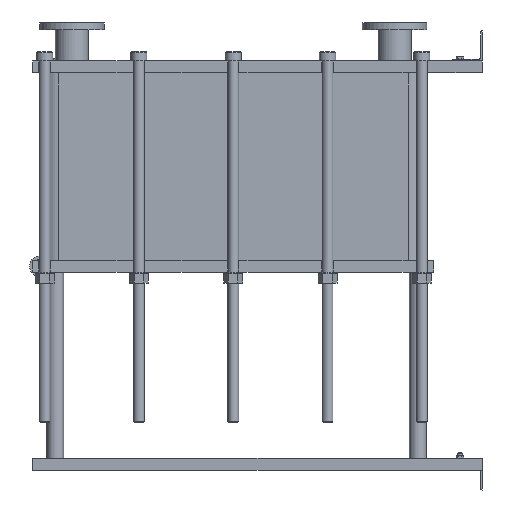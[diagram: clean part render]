
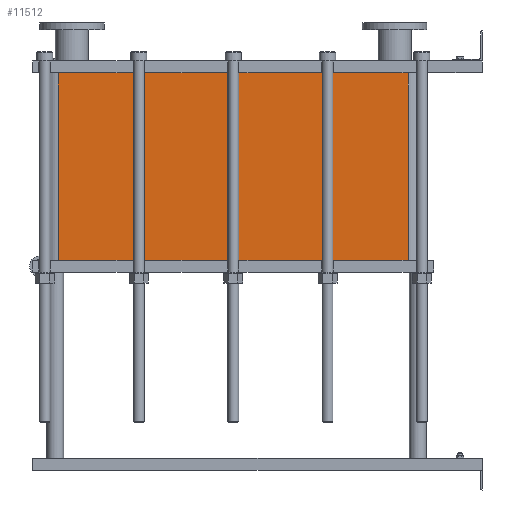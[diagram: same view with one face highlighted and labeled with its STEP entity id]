
A CAD part, left-side view. The second image highlights one B-rep face of the part: STEP entity #11512.
In plain terms, the highlighted planar face has unit normal (-1, 0, 0).
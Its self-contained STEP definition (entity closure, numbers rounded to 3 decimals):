
#1129=LINE('',#23232,#2102);
#1130=LINE('',#23236,#2103);
#1131=LINE('',#23238,#2104);
#1132=LINE('',#23239,#2105);
#2102=VECTOR('',#15887,10.);
#2103=VECTOR('',#15892,10.);
#2104=VECTOR('',#15893,10.);
#2105=VECTOR('',#15894,10.);
#3267=FACE_OUTER_BOUND('',#4093,.T.);
#4093=EDGE_LOOP('',(#10103,#10104,#10105,#10106));
#5642=VERTEX_POINT('',#23229);
#5643=VERTEX_POINT('',#23231);
#5644=VERTEX_POINT('',#23235);
#5645=VERTEX_POINT('',#23237);
#7159=EDGE_CURVE('',#5643,#5642,#1129,.T.);
#7161=EDGE_CURVE('',#5642,#5644,#1130,.T.);
#7162=EDGE_CURVE('',#5645,#5644,#1131,.T.);
#7163=EDGE_CURVE('',#5645,#5643,#1132,.T.);
#10103=ORIENTED_EDGE('',*,*,#7161,.T.);
#10104=ORIENTED_EDGE('',*,*,#7162,.F.);
#10105=ORIENTED_EDGE('',*,*,#7163,.T.);
#10106=ORIENTED_EDGE('',*,*,#7159,.T.);
#10857=PLANE('',#12751);
#11512=ADVANCED_FACE('',(#3267),#10857,.T.);
#12751=AXIS2_PLACEMENT_3D('',#23234,#15890,#15891);
#15887=DIRECTION('',(0.,0.,-1.));
#15890=DIRECTION('center_axis',(-1.,0.,0.));
#15891=DIRECTION('ref_axis',(0.,1.,0.));
#15892=DIRECTION('',(0.,-1.,0.));
#15893=DIRECTION('',(0.,0.,-1.));
#15894=DIRECTION('',(0.,1.,0.));
#23229=CARTESIAN_POINT('',(-200.,1414.,-624.45));
#23231=CARTESIAN_POINT('',(-200.,1414.,0.));
#23232=CARTESIAN_POINT('',(-200.,1414.,0.));
#23234=CARTESIAN_POINT('Origin',(-200.,248.,0.));
#23235=CARTESIAN_POINT('',(-200.,248.,-624.45));
#23236=CARTESIAN_POINT('',(-200.,539.5,-624.45));
#23237=CARTESIAN_POINT('',(-200.,248.,0.));
#23238=CARTESIAN_POINT('',(-200.,248.,0.));
#23239=CARTESIAN_POINT('',(-200.,248.,0.));
